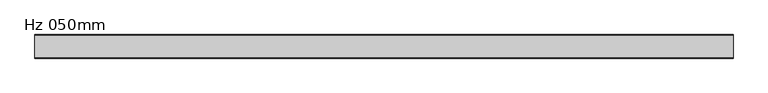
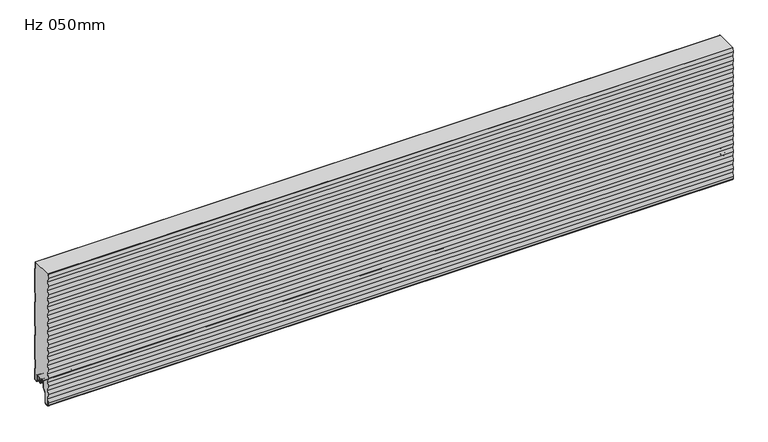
"""IFC4 building model written with IfcOpenShell, lengths in millimetres: plate geometry, KIP-MEX-KSS-1067-R19-CP-Hz-MR_SL : Hz 050mm."""

from ifc_helpers import new_model, si_unit, point, frame, frame_2d, origin, place, context, project, spatial, polyline, circle_curve, trimmed, segment, composite_curve, outline, extrude, source, transform, mapped, element, save
from ifc_brep_helpers import plane_surface, cylinder_surface, revolved_surface, advanced_brep


def hz_050mm_45b77bb8(model_context):
    return source(origin(), model_context, "Body", "SolidModel", [
        extrude(outline(composite_curve([segment(trimmed(circle_curve(frame_2d((-21.7013969, 2.2313092)), 1.1999976), [point((-21.670875, 1.0316999))], [point((-20.5014003, 2.2328239))], True, "CARTESIAN"), True, "CONTINUOUS"), segment(polyline([(-20.5014003, 2.2328239), (-20.5014003, 5.9912173), (-21.8998791, 5.9912173), (-21.8998791, 8.6903283)]), True, "CONTINUOUS"), segment(trimmed(circle_curve(frame_2d((-25.2498744, 8.6903283)), 3.3499953), [point((-21.8998791, 8.6903283))], [point((-25.2498744, 12.0403236))], True, "CARTESIAN"), True, "CONTINUOUS"), segment(polyline([(-25.2498744, 12.0403236), (-29.6498656, 12.0403236)]), True, "CONTINUOUS"), segment(trimmed(circle_curve(frame_2d((-29.6498656, 8.6903283)), 3.3499953), [point((-29.6498656, 12.0403236))], [point((-32.9998609, 8.6903283))], True, "CARTESIAN"), True, "CONTINUOUS"), segment(polyline([(-32.9998609, 8.6903283), (-32.9998609, -3.1205608)]), True, "CONTINUOUS"), segment(trimmed(circle_curve(frame_2d((-34.6998555, -3.1205608)), 1.6999946), [point((-32.9998609, -3.1205608))], [point((-33.4977778, -4.3226385))], False, "CARTESIAN"), True, "CONTINUOUS"), segment(polyline([(-33.4977778, -4.3226385), (-38.3261953, -9.1510559)]), True, "CONTINUOUS"), segment(trimmed(circle_curve(frame_2d((-36.6998515, -10.7773997)), 2.2999974), [point((-38.3261953, -9.1510559))], [point((-38.9998489, -10.7773997))], True, "CARTESIAN"), True, "CONTINUOUS"), segment(polyline([(-38.9998489, -10.7773997), (-38.9998489, -31.9198392)]), True, "CONTINUOUS"), segment(trimmed(circle_curve(frame_2d((-41.6998415, -31.9198392)), 2.6999926), [point((-38.9998489, -31.9198392))], [point((-41.2184377, -34.5765685))], False, "CARTESIAN"), True, "CONTINUOUS"), segment(polyline([(-41.2184377, -34.5765685), (-46.2001604, -35.0124127)]), True, "CONTINUOUS"), segment(trimmed(circle_curve(frame_2d((-46.4241501, -32.4521995)), 2.5699929), [point((-46.2001604, -35.0124127))], [point((-48.9941422, -32.4501937))], False, "CARTESIAN"), True, "CONTINUOUS"), segment(polyline([(-48.9941422, -32.4501937), (-48.9941422, -27.800174), (-47.9568999, -18.4692602), (-49.015715, -8.9442792), (-47.9568999, 0.5807017), (-49.015715, 10.1056827), (-47.9568999, 19.6306636), (-49.015715, 29.1556446), (-47.9568999, 38.6806255), (-49.015715, 48.2056065), (-47.9568999, 57.7305874), (-49.015715, 67.2555684), (-47.9568999, 76.7805493), (-49.015715, 86.3055303), (-47.9568999, 95.8305112), (-49.015715, 105.3554922), (-47.9568999, 114.8804731), (-49.015715, 124.4054541), (-47.9568999, 133.930435), (-49.015715, 143.455416), (-47.9568999, 152.9803969), (-49.015715, 162.5053779), (-47.9568999, 172.0303588), (-49.015715, 181.5553398), (-47.9568999, 191.0803207), (-49.015715, 200.6053017), (-47.9568999, 210.1302826), (-49.015715, 219.6552636), (-47.9568999, 229.1802445), (-49.015715, 238.7052255), (-47.9568999, 248.2302064), (-49.015715, 257.7551874), (-48.0992059, 266.0), (-2.2002391, 266.0), (-2.2002391, 251.0192115), (-1.0000084, 249.6335785), (-1.0000084, 195.5801631), (-2.2002391, 194.1945302), (-2.2002391, 174.8193639), (-1.0000084, 173.4337309), (-1.0000084, 119.3803155), (-2.2002391, 117.9946826), (-2.2002391, 98.6195163), (-1.0000084, 97.2338833), (-1.0000084, 43.1804679), (-2.2002391, 41.794835), (-2.2002391, 22.4196687), (-1.0, 21.034026), (-1.0, -3.4662506), (-5.2315473, -3.4662506)]), True, "CONTINUOUS"), segment(trimmed(circle_curve(frame_2d((-5.2315473, -1.6962564)), 1.7699942), [point((-5.2315473, -3.4662506))], [point((-7.0015415, -1.6962564))], False, "CARTESIAN"), True, "CONTINUOUS"), segment(polyline([(-7.0015415, -1.6962564), (-7.0015415, 8.7237222)]), True, "CONTINUOUS"), segment(trimmed(circle_curve(frame_2d((-10.3015374, 8.7237222)), 3.2999959), [point((-7.0015415, 8.7237222))], [point((-10.3015374, 12.023718))], True, "CARTESIAN"), True, "CONTINUOUS"), segment(polyline([(-10.3015374, 12.023718), (-14.7015286, 12.023718)]), True, "CONTINUOUS"), segment(trimmed(circle_curve(frame_2d((-14.7015286, 8.7237223)), 3.2999957), [point((-14.7015286, 12.023718))], [point((-18.0015243, 8.7237223))], True, "CARTESIAN"), True, "CONTINUOUS"), segment(polyline([(-18.0015243, 8.7237223), (-18.0015243, 6.0315125), (-19.0015188, 6.0315125), (-19.0015188, 2.0313089)]), True, "CONTINUOUS"), segment(trimmed(circle_curve(frame_2d((-18.0015216, 2.0313089)), 0.9999972), [point((-19.0015188, 2.0313089))], [point((-18.0015275, 1.0313117))], True, "CARTESIAN"), True, "CONTINUOUS"), segment(polyline([(-18.0015275, 1.0313117), (-19.0328392, 0.0), (-20.6391751, 0.0), (-21.670875, 1.0316999)]), True, "CONTINUOUS")], self_intersect=False)), frame((-740.0, 0.0, 0.0), z_axis=(1.0, 0.0, 0.0), x_axis=(0.0, 1.0, 0.0)), (0.0, 0.0, 1.0), 1480.0),
        advanced_brep(
        [(-740.0, -17.0015159, 2.0313088), (-740.0, -18.0015191, 1.0313116), (-740.0, -19.0015105, 2.0313088), (-740.0, -19.0015105, 6.0315125), (-740.0, -18.0015159, 6.0315125), (-740.0, -18.0015159, 8.7237223), (-740.0, -14.7015202, 12.023718), (-740.0, -10.301529, 12.023718), (-740.0, -7.0015335, 8.7237225), (-740.0, -7.0015335, -1.6962564), (-740.0, -5.2315393, -3.4662506), (-740.0, -0.9999916, -3.4662506), (-740.0, -0.9999916, 21.034026), (-740.0, -2.2002307, 22.4196686), (-740.0, -2.2002307, 41.7948349), (-740.0, -1.0, 43.1804679), (-740.0, -1.0, 97.2338833), (-740.0, -2.2002307, 98.6195162), (-740.0, -2.2002307, 117.9946825), (-740.0, -1.0, 119.3803155), (-740.0, -1.0, 173.4337309), (-740.0, -2.2002307, 174.8193638), (-740.0, -2.2002307, 194.1945301), (-740.0, -1.0, 195.5801631), (-740.0, -1.0, 249.6335785), (-740.0, -2.2002307, 251.0192114), (-740.0, -2.2002307, 266.0), (-740.0, -1.2002307, 266.0), (-740.0, -1.2002307, 251.3920919), (-740.0, -0.3417885, 250.4010442), (-740.0, 0.0, 249.4844273), (-740.0, 0.0, 195.7293142), (-740.0, -0.3417885, 194.8126973), (-740.0, -1.2002307, 193.8216497), (-740.0, -1.2002307, 175.1922443), (-740.0, -0.3417885, 174.2011966), (-740.0, 0.0, 173.2845797), (-740.0, 0.0, 119.5294666), (-740.0, -0.3417885, 118.6128497), (-740.0, -1.2002307, 117.6218021), (-740.0, -1.2002307, 98.9923967), (-740.0, -0.3417885, 98.001349), (-740.0, 0.0, 97.0847321), (-740.0, 0.0, 43.329619), (-740.0, -0.3417885, 42.4130021), (-740.0, -1.2002307, 41.4219545), (-740.0, -1.2002307, 22.7925491), (-740.0, -0.3417885, 21.8015014), (-740.0, 0.0, 20.8847931), (-740.0, 8.4e-06, -3.0662545), (-740.0, -1.3999878, -4.4662506), (-740.0, -5.2315393, -4.4662506), (-740.0, -8.0015335, -1.6962564), (-740.0, -8.0015335, 8.7237225), (-740.0, -10.301529, 11.023718), (-740.0, -14.7015202, 11.023718), (-740.0, -17.0015159, 8.7237223), (740.0, -17.0015159, 2.0313088), (740.0, -17.0015159, 8.7237223), (740.0, -14.7015202, 11.023718), (740.0, -10.301529, 11.023718), (740.0, -8.0015335, 8.7237225), (740.0, -8.0015335, -1.6962564), (740.0, -5.2315393, -4.4662506), (740.0, -1.3999878, -4.4662506), (740.0, 8.4e-06, -3.0662545), (740.0, 8.4e-06, 20.8848845), (740.0, -0.3417885, 21.8015014), (740.0, -1.2002307, 22.7925491), (740.0, -1.2002307, 41.4219545), (740.0, -0.3417885, 42.4130021), (740.0, 0.0, 43.329619), (740.0, 0.0, 97.0847321), (740.0, -0.3417885, 98.001349), (740.0, -1.2002307, 98.9923967), (740.0, -1.2002307, 117.6218021), (740.0, -0.3417885, 118.6128497), (740.0, 0.0, 119.5294666), (740.0, 0.0, 173.2845797), (740.0, -0.3417885, 174.2011966), (740.0, -1.2002307, 175.1922443), (740.0, -1.2002307, 193.8216497), (740.0, -0.3417885, 194.8126973), (740.0, 0.0, 195.7293142), (740.0, 0.0, 249.4844273), (740.0, -0.3417885, 250.4010442), (740.0, -1.2002307, 251.3920919), (740.0, -1.2002307, 266.0), (740.0, -2.2002307, 266.0), (740.0, -2.2002307, 251.0192114), (740.0, -1.0, 249.6335785), (740.0, -1.0, 195.5801631), (740.0, -2.2002307, 194.1945301), (740.0, -2.2002307, 174.8193638), (740.0, -1.0, 173.4337309), (740.0, -1.0, 119.3803155), (740.0, -2.2002307, 117.9946825), (740.0, -2.2002307, 98.6195162), (740.0, -1.0, 97.2338833), (740.0, -1.0, 43.1804679), (740.0, -2.2002307, 41.7948349), (740.0, -2.2002307, 22.4196686), (740.0, -0.9999916, 21.034026), (740.0, -0.9999916, -3.4662506), (740.0, -5.2315393, -3.4662506), (740.0, -7.0015335, -1.6962564), (740.0, -7.0015335, 8.7237225), (740.0, -10.301529, 12.023718), (740.0, -14.7015202, 12.023718), (740.0, -18.0015159, 8.7237223), (740.0, -18.0015159, 6.0315125), (740.0, -19.0015105, 6.0315125), (740.0, -19.0015105, 2.0313088), (740.0, -18.0015192, 1.0313116)],
        [
            (0, 1, circle_curve(frame((-740.0, -18.0015132, 2.0313088), z_axis=(-1.0, 0.0, 0.0), x_axis=(0.0, 0.0, 1.0)), 0.9999973)),
            (1, 2, circle_curve(frame((-740.0, -18.0015133, 2.0313088), z_axis=(-1.0, 0.0, 0.0), x_axis=(0.0, 0.0, 1.0)), 0.9999972)),
            (2, 3),
            (3, 4),
            (4, 5),
            (5, 6, circle_curve(frame((-740.0, -14.7015202, 8.7237223), z_axis=(-1.0, 0.0, 0.0), x_axis=(0.0, 0.0, 1.0)), 3.2999957)),
            (6, 7),
            (7, 8, circle_curve(frame((-740.0, -10.301529, 8.7237225), z_axis=(-1.0, 0.0, 0.0), x_axis=(0.0, 0.0, 1.0)), 3.2999955)),
            (8, 9),
            (9, 10, circle_curve(frame((-740.0, -5.2315393, -1.6962564), z_axis=(1.0, 0.0, 0.0), x_axis=(0.0, 0.0, 1.0)), 1.7699942)),
            (10, 11),
            (11, 12),
            (12, 13),
            (13, 14),
            (14, 15),
            (15, 16),
            (16, 17),
            (17, 18),
            (18, 19),
            (19, 20),
            (20, 21),
            (21, 22),
            (22, 23),
            (23, 24),
            (24, 25),
            (25, 26),
            (26, 27),
            (27, 28),
            (28, 29),
            (29, 30, circle_curve(frame((-740.0, -1.3999972, 249.4844273), z_axis=(-1.0, 0.0, 0.0), x_axis=(0.0, 0.0, 1.0)), 1.3999972)),
            (30, 31),
            (31, 32, circle_curve(frame((-740.0, -1.3999972, 195.7293142), z_axis=(-1.0, 0.0, 0.0), x_axis=(0.0, 0.0, 1.0)), 1.3999972)),
            (32, 33),
            (33, 34),
            (34, 35),
            (35, 36, circle_curve(frame((-740.0, -1.3999972, 173.2845797), z_axis=(-1.0, 0.0, 0.0), x_axis=(0.0, 0.0, 1.0)), 1.3999972)),
            (36, 37),
            (37, 38, circle_curve(frame((-740.0, -1.3999972, 119.5294666), z_axis=(-1.0, 0.0, 0.0), x_axis=(0.0, 0.0, 1.0)), 1.3999972)),
            (38, 39),
            (39, 40),
            (40, 41),
            (41, 42, circle_curve(frame((-740.0, -1.3999972, 97.0847321), z_axis=(-1.0, 0.0, 0.0), x_axis=(0.0, 0.0, 1.0)), 1.3999972)),
            (42, 43),
            (43, 44, circle_curve(frame((-740.0, -1.3999972, 43.329619), z_axis=(-1.0, 0.0, 0.0), x_axis=(0.0, 0.0, 1.0)), 1.3999972)),
            (44, 45),
            (45, 46),
            (46, 47),
            (47, 48, circle_curve(frame((-740.0, -1.3999972, 20.8848845), z_axis=(-1.0, 0.0, 0.0), x_axis=(0.0, 0.0, 1.0)), 1.3999972)),
            (48, 49),
            (49, 50, circle_curve(frame((-740.0, -1.3999878, -3.0662545), z_axis=(-1.0, 0.0, 0.0), x_axis=(0.0, 0.0, 1.0)), 1.3999962)),
            (50, 51),
            (51, 52, circle_curve(frame((-740.0, -5.2315393, -1.6962564), z_axis=(-1.0, 0.0, 0.0), x_axis=(0.0, 0.0, 1.0)), 2.7699942)),
            (52, 53),
            (53, 54, circle_curve(frame((-740.0, -10.301529, 8.7237225), z_axis=(1.0, 0.0, 0.0), x_axis=(0.0, 0.0, 1.0)), 2.2999955)),
            (54, 55),
            (55, 56, circle_curve(frame((-740.0, -14.7015202, 8.7237223), z_axis=(1.0, 0.0, 0.0), x_axis=(0.0, 0.0, 1.0)), 2.2999957)),
            (56, 0),
            (57, 58),
            (58, 59, circle_curve(frame((740.0, -14.7015202, 8.7237223), z_axis=(-1.0, 0.0, 0.0), x_axis=(0.0, 0.0, 1.0)), 2.2999957)),
            (59, 60),
            (60, 61, circle_curve(frame((740.0, -10.301529, 8.7237225), z_axis=(-1.0, 0.0, 0.0), x_axis=(0.0, 0.0, 1.0)), 2.2999955)),
            (61, 62),
            (62, 63, circle_curve(frame((740.0, -5.2315393, -1.6962564), z_axis=(1.0, 0.0, 0.0), x_axis=(0.0, 0.0, 1.0)), 2.7699942)),
            (63, 64),
            (64, 65, circle_curve(frame((740.0, -1.3999878, -3.0662545), z_axis=(1.0, 0.0, 0.0), x_axis=(0.0, 0.0, 1.0)), 1.3999962)),
            (65, 66),
            (66, 67, circle_curve(frame((740.0, -1.3999972, 20.8848845), z_axis=(1.0, 0.0, 0.0), x_axis=(0.0, 0.0, 1.0)), 1.3999972)),
            (67, 68),
            (68, 69),
            (69, 70),
            (70, 71, circle_curve(frame((740.0, -1.3999972, 43.329619), z_axis=(1.0, 0.0, 0.0), x_axis=(0.0, 0.0, 1.0)), 1.3999972)),
            (71, 72),
            (72, 73, circle_curve(frame((740.0, -1.3999972, 97.0847321), z_axis=(1.0, 0.0, 0.0), x_axis=(0.0, 0.0, 1.0)), 1.3999972)),
            (73, 74),
            (74, 75),
            (75, 76),
            (76, 77, circle_curve(frame((740.0, -1.3999972, 119.5294666), z_axis=(1.0, 0.0, 0.0), x_axis=(0.0, 0.0, 1.0)), 1.3999972)),
            (77, 78),
            (78, 79, circle_curve(frame((740.0, -1.3999972, 173.2845797), z_axis=(1.0, 0.0, 0.0), x_axis=(0.0, 0.0, 1.0)), 1.3999972)),
            (79, 80),
            (80, 81),
            (81, 82),
            (82, 83, circle_curve(frame((740.0, -1.3999972, 195.7293142), z_axis=(1.0, 0.0, 0.0), x_axis=(0.0, 0.0, 1.0)), 1.3999972)),
            (83, 84),
            (84, 85, circle_curve(frame((740.0, -1.3999972, 249.4844273), z_axis=(1.0, 0.0, 0.0), x_axis=(0.0, 0.0, 1.0)), 1.3999972)),
            (85, 86),
            (86, 87),
            (87, 88),
            (88, 89),
            (89, 90),
            (90, 91),
            (91, 92),
            (92, 93),
            (93, 94),
            (94, 95),
            (95, 96),
            (96, 97),
            (97, 98),
            (98, 99),
            (99, 100),
            (100, 101),
            (101, 102),
            (102, 103),
            (103, 104),
            (104, 105, circle_curve(frame((740.0, -5.2315393, -1.6962564), z_axis=(-1.0, 0.0, 0.0), x_axis=(0.0, 0.0, 1.0)), 1.7699942)),
            (105, 106),
            (106, 107, circle_curve(frame((740.0, -10.301529, 8.7237225), z_axis=(1.0, 0.0, 0.0), x_axis=(0.0, 0.0, 1.0)), 3.2999955)),
            (107, 108),
            (108, 109, circle_curve(frame((740.0, -14.7015202, 8.7237223), z_axis=(1.0, 0.0, 0.0), x_axis=(0.0, 0.0, 1.0)), 3.2999957)),
            (109, 110),
            (110, 111),
            (111, 112),
            (112, 113, circle_curve(frame((740.0, -18.0015133, 2.0313088), z_axis=(1.0, 0.0, 0.0), x_axis=(0.0, 0.0, 1.0)), 0.9999972)),
            (113, 57, circle_curve(frame((740.0, -18.0015132, 2.0313088), z_axis=(1.0, 0.0, 0.0), x_axis=(0.0, 0.0, 1.0)), 0.9999973)),
            (56, 58),
            (57, 0),
            (55, 59),
            (54, 60),
            (53, 61),
            (52, 62),
            (51, 63),
            (50, 64),
            (49, 65),
            (48, 66),
            (47, 67),
            (46, 68),
            (45, 69),
            (44, 70),
            (43, 71),
            (42, 72),
            (41, 73),
            (40, 74),
            (39, 75),
            (38, 76),
            (37, 77),
            (36, 78),
            (35, 79),
            (34, 80),
            (33, 81),
            (32, 82),
            (31, 83),
            (30, 84),
            (29, 85),
            (28, 86),
            (27, 87),
            (88, 26),
            (25, 89),
            (24, 90),
            (23, 91),
            (22, 92),
            (21, 93),
            (20, 94),
            (19, 95),
            (18, 96),
            (17, 97),
            (16, 98),
            (15, 99),
            (14, 100),
            (13, 101),
            (12, 102),
            (11, 103),
            (10, 104),
            (9, 105),
            (8, 106),
            (7, 107),
            (6, 108),
            (5, 109),
            (4, 110),
            (3, 111),
            (2, 112),
            (1, 113),
        ],
        [
            plane_surface(frame((-740.0, 0.0, 533.4), z_axis=(-1.0, 0.0, 0.0), x_axis=(0.0, 1.0, 0.0))),
            plane_surface(frame((740.0, 0.0, 533.4), z_axis=(1.0, 0.0, 0.0), x_axis=(0.0, 1.0, 0.0))),
            plane_surface(frame((-740.0, -17.0015159, 2.0313088), z_axis=(0.0, 1.0, 0.0), x_axis=(1.0, 0.0, 0.0))),
            revolved_surface(polyline([(740.0, -14.7015202, 11.023718), (-740.0, -14.7015202, 11.023718)]), (-740.0, -14.7015202, 8.7237223), (1.0, 0.0, 0.0)),
            plane_surface(frame((-740.0, -14.7015202, 11.023718), z_axis=(0.0, 0.0, -1.0), x_axis=(1.0, 0.0, 0.0))),
            revolved_surface(polyline([(740.0, -10.301529, 11.023717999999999), (-740.0, -10.301529, 11.023717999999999)]), (-740.0, -10.301529, 8.7237225), (1.0, 0.0, 0.0)),
            plane_surface(frame((-740.0, -8.0015335, 8.7237225), z_axis=(0.0, -1.0, 0.0), x_axis=(1.0, 0.0, 0.0))),
            cylinder_surface(frame((-740.0, -5.2315393, -1.6962564), z_axis=(-1.0, 0.0, 0.0), x_axis=(0.0, 0.0, 1.0)), 2.7699942),
            plane_surface(frame((-740.0, -5.2315393, -4.4662506), z_axis=(0.0, 0.0, -1.0), x_axis=(1.0, 0.0, 0.0))),
            cylinder_surface(frame((-740.0, -1.3999878, -3.0662545), z_axis=(-1.0, 0.0, 0.0), x_axis=(0.0, 0.0, 1.0)), 1.3999962),
            plane_surface(frame((-740.0, 8.4e-06, -3.0662545), z_axis=(0.0, 1.0, 0.0), x_axis=(1.0, 0.0, 0.0))),
            cylinder_surface(frame((-740.0, -1.3999972, 20.8848845), z_axis=(-1.0, 0.0, 0.0), x_axis=(0.0, 0.0, 1.0)), 1.3999972),
            plane_surface(frame((-740.0, -0.3417885, 21.8015014), z_axis=(0.0, 0.755864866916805, 0.6547276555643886), x_axis=(1.0, 0.0, 0.0))),
            plane_surface(frame((-740.0, -1.2002307, 32.1072518), z_axis=(0.0, 1.0, 0.0), x_axis=(1.0, 0.0, 0.0))),
            plane_surface(frame((-740.0, -1.2002307, 41.4219545), z_axis=(0.0, 0.755864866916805, -0.6547276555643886), x_axis=(1.0, 0.0, 0.0))),
            cylinder_surface(frame((-740.0, -1.3999972, 43.329619), z_axis=(-1.0, 0.0, 0.0), x_axis=(0.0, 0.0, 1.0)), 1.3999972),
            plane_surface(frame((-740.0, 0.0, 43.329619), z_axis=(0.0, 1.0, 0.0), x_axis=(1.0, 0.0, 0.0))),
            cylinder_surface(frame((-740.0, -1.3999972, 97.0847321), z_axis=(-1.0, 0.0, 0.0), x_axis=(0.0, 0.0, 1.0)), 1.3999972),
            plane_surface(frame((-740.0, -0.3417885, 98.001349), z_axis=(0.0, 0.755864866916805, 0.6547276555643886), x_axis=(1.0, 0.0, 0.0))),
            plane_surface(frame((-740.0, -1.2002307, 108.3070994), z_axis=(0.0, 1.0, 0.0), x_axis=(1.0, 0.0, 0.0))),
            plane_surface(frame((-740.0, -1.2002307, 117.6218021), z_axis=(0.0, 0.755864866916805, -0.6547276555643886), x_axis=(1.0, 0.0, 0.0))),
            cylinder_surface(frame((-740.0, -1.3999972, 119.5294666), z_axis=(-1.0, 0.0, 0.0), x_axis=(0.0, 0.0, 1.0)), 1.3999972),
            plane_surface(frame((-740.0, 0.0, 119.5294666), z_axis=(0.0, 1.0, 0.0), x_axis=(1.0, 0.0, 0.0))),
            cylinder_surface(frame((-740.0, -1.3999972, 173.2845797), z_axis=(-1.0, 0.0, 0.0), x_axis=(0.0, 0.0, 1.0)), 1.3999972),
            plane_surface(frame((-740.0, -0.3417885, 174.2011966), z_axis=(0.0, 0.755864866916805, 0.6547276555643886), x_axis=(1.0, 0.0, 0.0))),
            plane_surface(frame((-740.0, -1.2002307, 184.506947), z_axis=(0.0, 1.0, 0.0), x_axis=(1.0, 0.0, 0.0))),
            plane_surface(frame((-740.0, -1.2002307, 193.8216497), z_axis=(0.0, 0.755864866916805, -0.6547276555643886), x_axis=(1.0, 0.0, 0.0))),
            cylinder_surface(frame((-740.0, -1.3999972, 195.7293142), z_axis=(-1.0, 0.0, 0.0), x_axis=(0.0, 0.0, 1.0)), 1.3999972),
            plane_surface(frame((-740.0, 0.0, 195.7293142), z_axis=(0.0, 1.0, 0.0), x_axis=(1.0, 0.0, 0.0))),
            cylinder_surface(frame((-740.0, -1.3999972, 249.4844273), z_axis=(-1.0, 0.0, 0.0), x_axis=(0.0, 0.0, 1.0)), 1.3999972),
            plane_surface(frame((-740.0, -0.3417885, 250.4010442), z_axis=(0.0, 0.755864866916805, 0.6547276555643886), x_axis=(1.0, 0.0, 0.0))),
            plane_surface(frame((-740.0, -1.2002307, 260.7067946), z_axis=(0.0, 1.0, 0.0), x_axis=(1.0, 0.0, 0.0))),
            plane_surface(frame((-740.0, -2.2002307, 270.3943777), z_axis=(0.0, -1.0, 0.0), x_axis=(1.0, 0.0, 0.0))),
            plane_surface(frame((-740.0, -2.2002307, 251.0192114), z_axis=(0.0, -0.755864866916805, -0.6547276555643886), x_axis=(1.0, 0.0, 0.0))),
            plane_surface(frame((-740.0, -1.0, 249.6335785), z_axis=(0.0, -1.0, 0.0), x_axis=(1.0, 0.0, 0.0))),
            plane_surface(frame((-740.0, -1.0, 195.5801631), z_axis=(0.0, -0.755864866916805, 0.6547276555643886), x_axis=(1.0, 0.0, 0.0))),
            plane_surface(frame((-740.0, -2.2002307, 194.1945301), z_axis=(0.0, -1.0, 0.0), x_axis=(1.0, 0.0, 0.0))),
            plane_surface(frame((-740.0, -2.2002307, 174.8193638), z_axis=(0.0, -0.755864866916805, -0.6547276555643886), x_axis=(1.0, 0.0, 0.0))),
            plane_surface(frame((-740.0, -1.0, 173.4337309), z_axis=(0.0, -1.0, 0.0), x_axis=(1.0, 0.0, 0.0))),
            plane_surface(frame((-740.0, -1.0, 119.3803155), z_axis=(0.0, -0.755864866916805, 0.6547276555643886), x_axis=(1.0, 0.0, 0.0))),
            plane_surface(frame((-740.0, -2.2002307, 117.9946825), z_axis=(0.0, -1.0, 0.0), x_axis=(1.0, 0.0, 0.0))),
            plane_surface(frame((-740.0, -2.2002307, 98.6195162), z_axis=(0.0, -0.755864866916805, -0.6547276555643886), x_axis=(1.0, 0.0, 0.0))),
            plane_surface(frame((-740.0, -1.0, 97.2338833), z_axis=(0.0, -1.0, 0.0), x_axis=(1.0, 0.0, 0.0))),
            plane_surface(frame((-740.0, -1.0, 43.1804679), z_axis=(0.0, -0.755864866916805, 0.6547276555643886), x_axis=(1.0, 0.0, 0.0))),
            plane_surface(frame((-740.0, -2.2002307, 41.7948349), z_axis=(0.0, -1.0, 0.0), x_axis=(1.0, 0.0, 0.0))),
            plane_surface(frame((-740.0, -2.2002307, 22.4196686), z_axis=(0.0, -0.755864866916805, -0.6547276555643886), x_axis=(1.0, 0.0, 0.0))),
            plane_surface(frame((-740.0, -0.9999916, 21.034026), z_axis=(0.0, -1.0, 0.0), x_axis=(1.0, 0.0, 0.0))),
            plane_surface(frame((-740.0, -0.9999916, -3.4662506), z_axis=(0.0, 0.0, 1.0), x_axis=(1.0, 0.0, 0.0))),
            revolved_surface(polyline([(740.0, -5.2315393, 0.07373779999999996), (-740.0, -5.2315393, 0.07373779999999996)]), (-740.0, -5.2315393, -1.6962564), (1.0, 0.0, 0.0)),
            plane_surface(frame((-740.0, -7.0015335, -1.6962564), z_axis=(0.0, 1.0, 0.0), x_axis=(1.0, 0.0, 0.0))),
            cylinder_surface(frame((-740.0, -10.301529, 8.7237225), z_axis=(-1.0, 0.0, 0.0), x_axis=(0.0, 0.0, 1.0)), 3.2999955),
            plane_surface(frame((-740.0, -10.301529, 12.023718), z_axis=(0.0, 0.0, 1.0), x_axis=(1.0, 0.0, 0.0))),
            cylinder_surface(frame((-740.0, -14.7015202, 8.7237223), z_axis=(-1.0, 0.0, 0.0), x_axis=(0.0, 0.0, 1.0)), 3.2999957),
            plane_surface(frame((-740.0, -18.0015159, 8.7237223), z_axis=(0.0, -1.0, 0.0), x_axis=(1.0, 0.0, 0.0))),
            plane_surface(frame((-740.0, -18.0015159, 6.0315125), z_axis=(0.0, 0.0, 1.0), x_axis=(1.0, 0.0, 0.0))),
            plane_surface(frame((-740.0, -19.0015105, 6.0315125), z_axis=(0.0, -1.0, 0.0), x_axis=(1.0, 0.0, 0.0))),
            cylinder_surface(frame((-740.0, -18.0015133, 2.0313088), z_axis=(-1.0, 0.0, 0.0), x_axis=(0.0, 0.0, 1.0)), 0.9999972),
            cylinder_surface(frame((-740.0, -18.0015132, 2.0313088), z_axis=(-1.0, 0.0, 0.0), x_axis=(0.0, 0.0, 1.0)), 0.9999973),
            plane_surface(frame((740.0, 10.0, 266.0), z_axis=(0.0, 0.0, 1.0), x_axis=(-1.0, 0.0, 0.0))),
        ],
        [
            (0, [[1, 2, 3, 4, 5, 6, 7, 8, 9, 10, 11, 12, 13, 14, 15, 16, 17, 18, 19, 20, 21, 22, 23, 24, 25, 26, 27, 28, 29, 30, 31, 32, 33, 34, 35, 36, 37, 38, 39, 40, 41, 42, 43, 44, 45, 46, 47, 48, 49, 50, 51, 52, 53, 54, 55, 56, 57]]),
            (1, [[58, 59, 60, 61, 62, 63, 64, 65, 66, 67, 68, 69, 70, 71, 72, 73, 74, 75, 76, 77, 78, 79, 80, 81, 82, 83, 84, 85, 86, 87, 88, 89, 90, 91, 92, 93, 94, 95, 96, 97, 98, 99, 100, 101, 102, 103, 104, 105, 106, 107, 108, 109, 110, 111, 112, 113, 114]]),
            (2, [[115, -58, 116, -57]]),
            (3, [[117, -59, -115, -56]]),
            (4, [[118, -60, -117, -55]]),
            (5, [[119, -61, -118, -54]]),
            (6, [[120, -62, -119, -53]]),
            (7, [[121, -63, -120, -52]]),
            (8, [[122, -64, -121, -51]]),
            (9, [[123, -65, -122, -50]]),
            (10, [[124, -66, -123, -49]]),
            (11, [[125, -67, -124, -48]]),
            (12, [[126, -68, -125, -47]]),
            (13, [[127, -69, -126, -46]]),
            (14, [[128, -70, -127, -45]]),
            (15, [[129, -71, -128, -44]]),
            (16, [[130, -72, -129, -43]]),
            (17, [[131, -73, -130, -42]]),
            (18, [[132, -74, -131, -41]]),
            (19, [[133, -75, -132, -40]]),
            (20, [[134, -76, -133, -39]]),
            (21, [[135, -77, -134, -38]]),
            (22, [[136, -78, -135, -37]]),
            (23, [[137, -79, -136, -36]]),
            (24, [[138, -80, -137, -35]]),
            (25, [[139, -81, -138, -34]]),
            (26, [[140, -82, -139, -33]]),
            (27, [[141, -83, -140, -32]]),
            (28, [[142, -84, -141, -31]]),
            (29, [[143, -85, -142, -30]]),
            (30, [[144, -86, -143, -29]]),
            (31, [[-28, 145, -87, -144]]),
            (32, [[-89, 146, -26, 147]]),
            (33, [[148, -90, -147, -25]]),
            (34, [[149, -91, -148, -24]]),
            (35, [[150, -92, -149, -23]]),
            (36, [[151, -93, -150, -22]]),
            (37, [[152, -94, -151, -21]]),
            (38, [[153, -95, -152, -20]]),
            (39, [[154, -96, -153, -19]]),
            (40, [[155, -97, -154, -18]]),
            (41, [[156, -98, -155, -17]]),
            (42, [[157, -99, -156, -16]]),
            (43, [[158, -100, -157, -15]]),
            (44, [[159, -101, -158, -14]]),
            (45, [[160, -102, -159, -13]]),
            (46, [[161, -103, -160, -12]]),
            (47, [[162, -104, -161, -11]]),
            (48, [[163, -105, -162, -10]]),
            (49, [[164, -106, -163, -9]]),
            (50, [[165, -107, -164, -8]]),
            (51, [[166, -108, -165, -7]]),
            (52, [[167, -109, -166, -6]]),
            (53, [[168, -110, -167, -5]]),
            (54, [[169, -111, -168, -4]]),
            (55, [[170, -112, -169, -3]]),
            (56, [[171, -113, -170, -2]]),
            (57, [[-116, -114, -171, -1]]),
            (58, [[-146, -88, -145, -27]]),
        ],
    ),
        extrude(outline(composite_curve([segment(polyline([(-50.0, -8.9442792), (-48.9411849, 0.5807017), (-50.0, 10.1056827), (-48.9411849, 19.6306636), (-50.0, 29.1556446), (-48.9411849, 38.6806255), (-50.0, 48.2056065), (-48.9411849, 57.7305874), (-50.0, 67.2555684), (-48.9411849, 76.7805493), (-50.0, 86.3055303), (-48.9411849, 95.8305112), (-50.0, 105.3554922), (-48.9411849, 114.8804731), (-50.0, 124.4054541), (-48.9411849, 133.930435), (-50.0, 143.455416), (-48.9411849, 152.9803969), (-50.0, 162.5053779), (-48.9411849, 172.0303588), (-50.0, 181.5553398), (-48.9411849, 191.0803207), (-50.0, 200.6053017), (-48.9411849, 210.1302826), (-50.0, 219.6552636), (-48.9411849, 229.1802445), (-50.0, 238.7052255), (-48.9411849, 248.2302064), (-50.0, 257.7551874), (-49.0834909, 266.0), (-48.0773313, 266.0), (-48.9938405, 257.7551874), (-47.9350254, 248.2302064), (-48.9938405, 238.7052255), (-47.9350254, 229.1802445), (-48.9938405, 219.6552636), (-47.9350254, 210.1302826), (-48.9938405, 200.6053017), (-47.9350254, 191.0803207), (-48.9938405, 181.5553398), (-47.9350254, 172.0303588), (-48.9938405, 162.5053779), (-47.9350254, 152.9803969), (-48.9938405, 143.455416), (-47.9350254, 133.930435), (-48.9938405, 124.4054541), (-47.9350254, 114.8804731), (-48.9938405, 105.3554922), (-47.9350254, 95.8305112), (-48.9938405, 86.3055303), (-47.9350254, 76.7805493), (-48.9938405, 67.2555684), (-47.9350254, 57.7305874), (-48.9938405, 48.2056065), (-47.9350254, 38.6806255), (-48.9938405, 29.1556446), (-47.9350254, 19.6306636), (-48.9938405, 10.1056827), (-47.9350254, 0.5807017), (-48.9938405, -8.9442792), (-47.9350254, -18.4692602), (-48.9722676, -27.800174), (-48.9722676, -32.4501937)]), True, "CONTINUOUS"), segment(trimmed(circle_curve(frame_2d((-46.4022755, -32.4521995)), 2.5699929), [point((-48.9722676, -32.4501937))], [point((-46.1782859, -35.0124127))], True, "CARTESIAN"), True, "CONTINUOUS"), segment(polyline([(-46.1782859, -35.0124127), (-41.1965632, -34.5765685)]), True, "CONTINUOUS"), segment(trimmed(circle_curve(frame_2d((-41.677967, -31.9198392)), 2.6999926), [point((-41.1965632, -34.5765685))], [point((-38.9779744, -31.9198392))], True, "CARTESIAN"), True, "CONTINUOUS"), segment(polyline([(-38.9779744, -31.9198392), (-38.9779744, -10.7773997)]), True, "CONTINUOUS"), segment(trimmed(circle_curve(frame_2d((-36.677977, -10.7773997)), 2.2999974), [point((-38.9779744, -10.7773997))], [point((-38.3043208, -9.1510559))], False, "CARTESIAN"), True, "CONTINUOUS"), segment(polyline([(-38.3043208, -9.1510559), (-33.4759033, -4.3226385)]), True, "CONTINUOUS"), segment(trimmed(circle_curve(frame_2d((-34.677981, -3.1205608)), 1.6999946), [point((-33.4759033, -4.3226385))], [point((-32.9779864, -3.1205608))], True, "CARTESIAN"), True, "CONTINUOUS"), segment(polyline([(-32.9779864, -3.1205608), (-32.9779864, 8.6903283)]), True, "CONTINUOUS"), segment(trimmed(circle_curve(frame_2d((-29.6279911, 8.6903283)), 3.3499953), [point((-32.9779864, 8.6903283))], [point((-29.6279911, 12.0403236))], False, "CARTESIAN"), True, "CONTINUOUS"), segment(polyline([(-29.6279911, 12.0403236), (-25.2279999, 12.0403236)]), True, "CONTINUOUS"), segment(trimmed(circle_curve(frame_2d((-25.2279999, 8.6903283)), 3.3499953), [point((-25.2279999, 12.0403236))], [point((-21.8780046, 8.6903283))], False, "CARTESIAN"), True, "CONTINUOUS"), segment(polyline([(-21.8780046, 8.6903283), (-21.8780046, 5.9912173), (-20.4795257, 5.9912173), (-20.4795257, 2.2328239)]), True, "CONTINUOUS"), segment(trimmed(circle_curve(frame_2d((-21.6795224, 2.2313092)), 1.1999976), [point((-20.4795257, 2.2328239))], [point((-21.6486225, 1.0317095))], False, "CARTESIAN"), True, "CONTINUOUS"), segment(trimmed(circle_curve(frame_2d((-21.6795224, 2.2313092)), 1.1999976), [point((-21.6486225, 1.0317095))], [point((-22.8780046, 2.1710221))], False, "CARTESIAN"), True, "CONTINUOUS"), segment(polyline([(-22.8780046, 2.1710221), (-22.8780046, 8.6903283)]), True, "CONTINUOUS"), segment(trimmed(circle_curve(frame_2d((-25.2279999, 8.6903283)), 2.3499953), [point((-22.8780046, 8.6903283))], [point((-25.2279999, 11.0403236))], True, "CARTESIAN"), True, "CONTINUOUS"), segment(polyline([(-25.2279999, 11.0403236), (-29.6279911, 11.0403236)]), True, "CONTINUOUS"), segment(trimmed(circle_curve(frame_2d((-29.6279911, 8.6903283)), 2.3499953), [point((-29.6279911, 11.0403236))], [point((-31.9779864, 8.6903283))], True, "CARTESIAN"), True, "CONTINUOUS"), segment(polyline([(-31.9779864, 8.6903283), (-31.9779864, -3.1205608)]), True, "CONTINUOUS"), segment(trimmed(circle_curve(frame_2d((-34.677981, -3.1205608)), 2.6999946), [point((-31.9779864, -3.1205608))], [point((-32.7687965, -5.0297453))], False, "CARTESIAN"), True, "CONTINUOUS"), segment(polyline([(-32.7687965, -5.0297453), (-37.597214, -9.8581627)]), True, "CONTINUOUS"), segment(trimmed(circle_curve(frame_2d((-36.677977, -10.7773997)), 1.2999974), [point((-37.597214, -9.8581627))], [point((-37.9779744, -10.7773997))], True, "CARTESIAN"), True, "CONTINUOUS"), segment(polyline([(-37.9779744, -10.7773997), (-37.9779744, -31.9198392)]), True, "CONTINUOUS"), segment(trimmed(circle_curve(frame_2d((-41.677967, -31.9198392)), 3.6999926), [point((-37.9779744, -31.9198392))], [point((-41.0671659, -35.5690675))], False, "CARTESIAN"), True, "CONTINUOUS"), segment(polyline([(-41.0671659, -35.5690675), (-46.0911302, -36.0086074)]), True, "CONTINUOUS"), segment(trimmed(circle_curve(frame_2d((-46.4022755, -32.4521995)), 3.5699929), [point((-46.0911302, -36.0086074))], [point((-49.9722676, -32.4498355))], False, "CARTESIAN"), True, "CONTINUOUS"), segment(polyline([(-49.9722676, -32.4498355), (-49.9722676, -27.7447637), (-48.9411849, -18.4692602), (-50.0, -8.9442792)]), True, "CONTINUOUS")], self_intersect=False)), frame((-740.0, 0.0, 0.0), z_axis=(1.0, 0.0, 0.0), x_axis=(0.0, 1.0, 0.0)), (0.0, 0.0, 1.0), 1480.0),
    ])


if __name__ == "__main__":
    model = new_model("IFC4")
    model_context = context("Model", 3, world=origin())
    ifc_project = project(units=[si_unit("LENGTHUNIT", "METRE", prefix="MILLI")], contexts=[model_context])
    site = spatial("IfcSite", under=ifc_project)
    building = spatial("IfcBuilding", under=site)
    placement = place(None, origin())
    hz_050mm_shape = hz_050mm_45b77bb8(model_context)
    element("IfcPlate", 1, ObjectType="KIP-MEX-KSS-1067-R19-CP-Hz-MR_SL : Hz 050mm", at=placement, inside=building, context=model_context, shape_type="MappedRepresentation", body=[
        mapped(hz_050mm_shape, transform((0.0, 0.0, 0.0), x_axis=(1.0, 0.0, 0.0), y_axis=(0.0, 1.0, 0.0), z_axis=(0.0, 0.0, 1.0))),
    ])
    save(model, "model.ifc")
